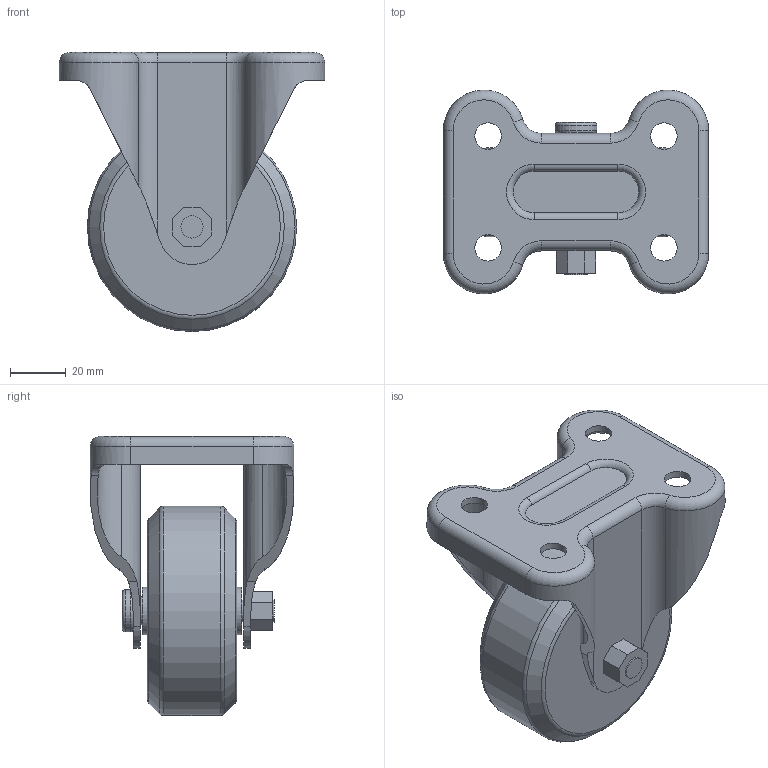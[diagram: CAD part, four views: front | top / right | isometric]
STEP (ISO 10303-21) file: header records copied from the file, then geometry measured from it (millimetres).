
FILE_DESCRIPTION(/* description */ (''),/* implementation_level */ '2;1');
FILE_NAME(/* name */ '25A03_3_F.stp',/* time_stamp */ '2022-08-27T11:24:07+08:00',/* author */ (''),/* organization */ (''),/* preprocessor_version */ 'ST-DEVELOPER v14',/* originating_system */ 'SIEMENS PLM Software NX 8.0',/* authorisation */ '');
FILE_SCHEMA (('AUTOMOTIVE_DESIGN { 1 0 10303 214 3 1 1 1 }'));
Length unit declared in the file: millimetre
Products named in the file (1): 25A03_3_F
Bounding box: 95 x 72.95 x 100 mm (x, y, z)
Volume: 174472.2 mm3; surface area: 45528.8 mm2
Topology: 1 solids, 1 shells, 311 faces, 823 edges, 539 vertices
Faces by surface type: plane 208, cylinder 75, torus 26, cone 2
Full cylindrical faces by diameter (mm): 8 x2, 8.2 x1, 9.5 x4, 10 x2, 15 x1, 17 x2, 75 x1
Entity records: 9734 total; most frequent: CARTESIAN_POINT 2397, ORIENTED_EDGE 1590, DIRECTION 1375, EDGE_CURVE 795, VERTEX_POINT 532, AXIS2_PLACEMENT_3D 513, EDGE_LOOP 369, LINE 349
